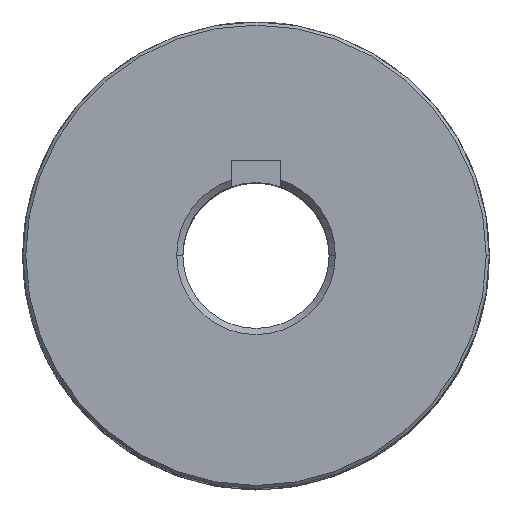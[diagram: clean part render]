
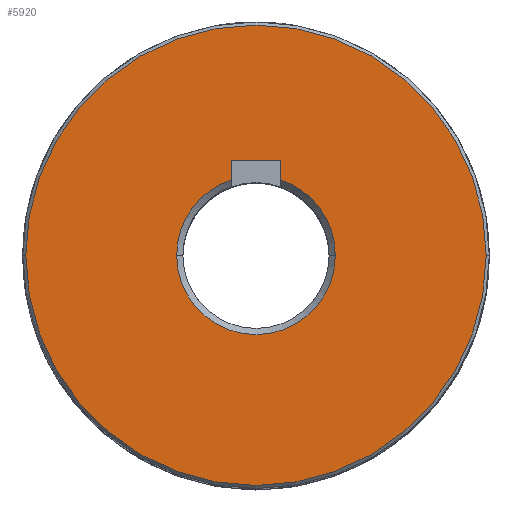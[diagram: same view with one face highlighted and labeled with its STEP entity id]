
A CAD part, top view. The second image highlights one B-rep face of the part: STEP entity #5920.
In plain terms, the highlighted planar face has unit normal (0, 0, 1).
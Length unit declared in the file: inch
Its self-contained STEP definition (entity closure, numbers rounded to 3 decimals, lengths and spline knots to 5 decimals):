
#2458=CARTESIAN_POINT('',(0.,0.,2.62));
#2459=DIRECTION('',(0.,0.,1.));
#2460=DIRECTION('',(-1.,0.,0.));
#2461=AXIS2_PLACEMENT_3D('',#2458,#2459,#2460);
#2463=CARTESIAN_POINT('',(0.,0.,2.62));
#2464=DIRECTION('',(0.,0.,1.));
#2465=DIRECTION('',(1.,0.,0.));
#2466=AXIS2_PLACEMENT_3D('',#2463,#2464,#2465);
#2468=CARTESIAN_POINT('',(0.,0.,2.62));
#2469=DIRECTION('',(0.,0.,-1.));
#2470=DIRECTION('',(0.314,0.95,0.));
#2471=AXIS2_PLACEMENT_3D('',#2468,#2469,#2470);
#2473=DIRECTION('',(0.,-1.,0.));
#2474=VECTOR('',#2473,0.06287);
#2475=CARTESIAN_POINT('',(0.08,0.305,2.62));
#2476=LINE('',#2475,#2474);
#2477=DIRECTION('',(1.,0.,0.));
#2478=VECTOR('',#2477,0.16);
#2479=CARTESIAN_POINT('',(-0.08,0.305,2.62));
#2480=LINE('',#2479,#2478);
#2481=DIRECTION('',(0.,1.,0.));
#2482=VECTOR('',#2481,0.06287);
#2483=CARTESIAN_POINT('',(-0.08,0.24213,2.62));
#2484=LINE('',#2483,#2482);
#2485=CARTESIAN_POINT('',(0.,0.,2.62));
#2486=DIRECTION('',(0.,0.,-1.));
#2487=DIRECTION('',(-1.,0.,0.));
#2488=AXIS2_PLACEMENT_3D('',#2485,#2486,#2487);
#2490=CARTESIAN_POINT('',(0.,0.,2.62));
#2491=DIRECTION('',(0.,0.,-1.));
#2492=DIRECTION('',(1.,0.,0.));
#2493=AXIS2_PLACEMENT_3D('',#2490,#2491,#2492);
#2665=CARTESIAN_POINT('',(-0.08,0.24213,2.62));
#2745=CARTESIAN_POINT('',(0.74,0.,2.62));
#2747=VERTEX_POINT('',#2745);
#2772=CARTESIAN_POINT('',(0.255,0.,2.62));
#2773=CARTESIAN_POINT('',(-0.255,0.,2.62));
#2774=VERTEX_POINT('',#2772);
#2775=VERTEX_POINT('',#2773);
#2799=CARTESIAN_POINT('',(-0.08,0.305,2.62));
#2801=VERTEX_POINT('',#2799);
#2837=CARTESIAN_POINT('',(0.08,0.305,2.62));
#2838=CARTESIAN_POINT('',(0.08,0.24213,2.62));
#2839=VERTEX_POINT('',#2837);
#2840=VERTEX_POINT('',#2838);
#2921=VERTEX_POINT('',#2665);
#2944=CARTESIAN_POINT('',(-0.74,0.,2.62));
#2945=VERTEX_POINT('',#2944);
#5898=CARTESIAN_POINT('',(0.,0.,2.62));
#5899=DIRECTION('',(0.,0.,1.));
#5900=DIRECTION('',(1.,0.,0.));
#5901=AXIS2_PLACEMENT_3D('',#5898,#5899,#5900);
#5902=PLANE('',#5901);
#5904=ORIENTED_EDGE('',*,*,#5903,.F.);
#5906=ORIENTED_EDGE('',*,*,#5905,.F.);
#5907=EDGE_LOOP('',(#5904,#5906));
#5908=FACE_OUTER_BOUND('',#5907,.F.);
#5910=ORIENTED_EDGE('',*,*,#5909,.F.);
#5911=ORIENTED_EDGE('',*,*,#5801,.F.);
#5912=ORIENTED_EDGE('',*,*,#5787,.F.);
#5913=ORIENTED_EDGE('',*,*,#5772,.F.);
#5915=ORIENTED_EDGE('',*,*,#5914,.F.);
#5917=ORIENTED_EDGE('',*,*,#5916,.F.);
#5918=EDGE_LOOP('',(#5910,#5911,#5912,#5913,#5915,#5917));
#5919=FACE_BOUND('',#5918,.F.);
#2462=CIRCLE('',#2461,0.74);
#2467=CIRCLE('',#2466,0.74);
#2472=CIRCLE('',#2471,0.255);
#2489=CIRCLE('',#2488,0.255);
#2494=CIRCLE('',#2493,0.255);
#5772=EDGE_CURVE('',#2921,#2801,#2484,.T.);
#5787=EDGE_CURVE('',#2801,#2839,#2480,.T.);
#5801=EDGE_CURVE('',#2839,#2840,#2476,.T.);
#5903=EDGE_CURVE('',#2945,#2747,#2462,.T.);
#5905=EDGE_CURVE('',#2747,#2945,#2467,.T.);
#5909=EDGE_CURVE('',#2840,#2774,#2472,.T.);
#5914=EDGE_CURVE('',#2775,#2921,#2489,.T.);
#5916=EDGE_CURVE('',#2774,#2775,#2494,.T.);
#5920=ADVANCED_FACE('',(#5908,#5919),#5902,.T.);
